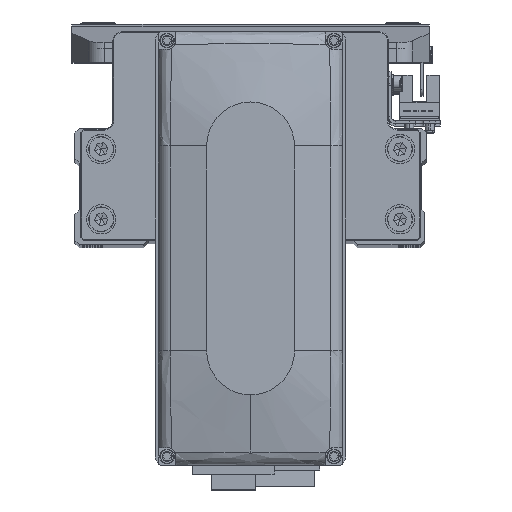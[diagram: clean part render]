
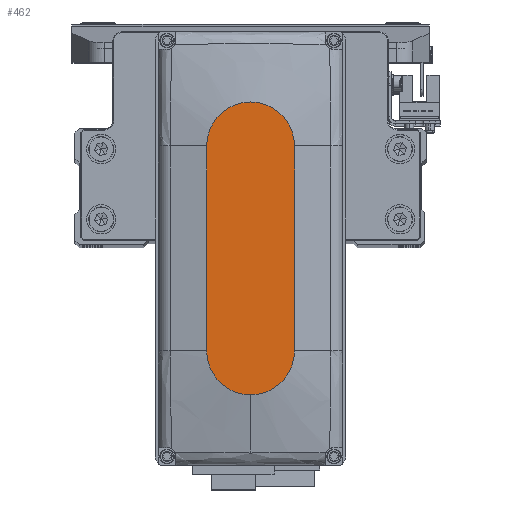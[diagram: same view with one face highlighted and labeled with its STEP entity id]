
A CAD part, top view. The second image highlights one B-rep face of the part: STEP entity #462.
In plain terms, the highlighted planar face has unit normal (0, 0, 1).
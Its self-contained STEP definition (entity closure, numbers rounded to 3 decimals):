
#462 = ADVANCED_FACE ( 'NONE', ( #18083 ), #32017, .T. ) ;
#667 = CARTESIAN_POINT ( 'NONE',  ( 0., 0., 35. ) ) ;
#1478 = VERTEX_POINT ( 'NONE', #4904 ) ;
#2326 = EDGE_LOOP ( 'NONE', ( #44917, #6548, #45031, #15184, #16436 ) ) ;
#2433 = CARTESIAN_POINT ( 'NONE',  ( -35., 15., 35. ) ) ;
#2825 = DIRECTION ( 'NONE',  ( 0., 0., 1. ) ) ;
#3457 = DIRECTION ( 'NONE',  ( 1., 0., 0. ) ) ;
#4904 = CARTESIAN_POINT ( 'NONE',  ( 35., 15., 35. ) ) ;
#5857 = CARTESIAN_POINT ( 'NONE',  ( 35., -15., 35. ) ) ;
#6548 = ORIENTED_EDGE ( 'NONE', *, *, #25961, .T. ) ;
#7599 = VECTOR ( 'NONE', #36027, 1000. ) ;
#8132 = LINE ( 'NONE', #22075, #7599 ) ;
#8162 = CARTESIAN_POINT ( 'NONE',  ( -35., -15., 35. ) ) ;
#11364 = CARTESIAN_POINT ( 'NONE',  ( 35., 0., 35. ) ) ;
#11550 = LINE ( 'NONE', #25488, #36459 ) ;
#12470 = EDGE_CURVE ( 'NONE', #18654, #36734, #42669, .T. ) ;
#14645 = DIRECTION ( 'NONE',  ( 0., 0., 1. ) ) ;
#15184 = ORIENTED_EDGE ( 'NONE', *, *, #12470, .T. ) ;
#16436 = ORIENTED_EDGE ( 'NONE', *, *, #36761, .T. ) ;
#16785 = DIRECTION ( 'NONE',  ( 1., 0., 0. ) ) ;
#18083 = FACE_OUTER_BOUND ( 'NONE', #2326, .T. ) ;
#18654 = VERTEX_POINT ( 'NONE', #5857 ) ;
#20840 = CARTESIAN_POINT ( 'NONE',  ( -35., 0., 35. ) ) ;
#21152 = EDGE_CURVE ( 'NONE', #44619, #18654, #8132, .T. ) ;
#22075 = CARTESIAN_POINT ( 'NONE',  ( -35., -15., 35. ) ) ;
#23102 = CIRCLE ( 'NONE', #28939, 15. ) ;
#25295 = DIRECTION ( 'NONE',  ( 0., 0., 1. ) ) ;
#25488 = CARTESIAN_POINT ( 'NONE',  ( -35., 15., 35. ) ) ;
#25961 = EDGE_CURVE ( 'NONE', #31060, #44619, #23102, .T. ) ;
#28573 = DIRECTION ( 'NONE',  ( 1., 0., 0. ) ) ;
#28807 = AXIS2_PLACEMENT_3D ( 'NONE', #34159, #2825, #16785 ) ;
#28939 = AXIS2_PLACEMENT_3D ( 'NONE', #20840, #34787, #3457 ) ;
#31060 = VERTEX_POINT ( 'NONE', #2433 ) ;
#31800 = AXIS2_PLACEMENT_3D ( 'NONE', #667, #14645, #28573 ) ;
#32017 = PLANE ( 'NONE',  #31800 ) ;
#34159 = CARTESIAN_POINT ( 'NONE',  ( 35., 0., 35. ) ) ;
#34787 = DIRECTION ( 'NONE',  ( 0., 0., 1. ) ) ;
#35371 = CARTESIAN_POINT ( 'NONE',  ( 50., 0., 35. ) ) ;
#36027 = DIRECTION ( 'NONE',  ( 1., 0., 0. ) ) ;
#36381 = CIRCLE ( 'NONE', #42223, 15. ) ;
#36459 = VECTOR ( 'NONE', #39428, 1000. ) ;
#36734 = VERTEX_POINT ( 'NONE', #35371 ) ;
#36761 = EDGE_CURVE ( 'NONE', #36734, #1478, #36381, .T. ) ;
#39256 = DIRECTION ( 'NONE',  ( 1., 0., 0. ) ) ;
#39428 = DIRECTION ( 'NONE',  ( -1., 0., 0. ) ) ;
#42223 = AXIS2_PLACEMENT_3D ( 'NONE', #11364, #25295, #39256 ) ;
#42669 = CIRCLE ( 'NONE', #28807, 15. ) ;
#44619 = VERTEX_POINT ( 'NONE', #8162 ) ;
#44917 = ORIENTED_EDGE ( 'NONE', *, *, #45013, .T. ) ;
#45013 = EDGE_CURVE ( 'NONE', #1478, #31060, #11550, .T. ) ;
#45031 = ORIENTED_EDGE ( 'NONE', *, *, #21152, .T. ) ;
